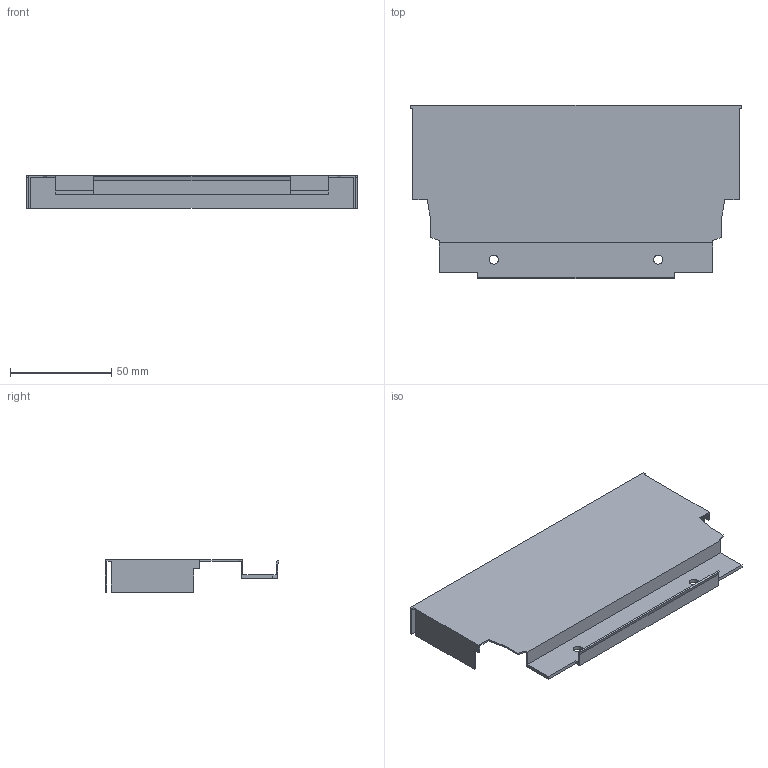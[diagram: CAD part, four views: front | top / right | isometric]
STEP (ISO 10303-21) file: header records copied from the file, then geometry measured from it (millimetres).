
FILE_DESCRIPTION (( 'STEP AP214' ), '1' );
FILE_NAME ('_DWD_XP Stahlrückwand_H86_KAB250_S19.step', '2010-07-08T12:10:28', ( 'grass' ), ( '' ), 'SwSTEP 2.0', 'SolidWorks 2010', '' );
FILE_SCHEMA (( 'AUTOMOTIVE_DESIGN' ));
Length unit declared in the file: millimetre
Products named in the file (1): _DWD_XP Stahlrückwand_H86_KAB250_S19
Bounding box: 163 x 85.79 x 16 mm (x, y, z)
Volume: 16666.3 mm3; surface area: 37264.6 mm2
Topology: 1 solids, 1 shells, 48 faces, 138 edges, 92 vertices
Faces by surface type: plane 44, cylinder 4
Entity records: 1592 total; most frequent: CARTESIAN_POINT 279, ORIENTED_EDGE 276, DIRECTION 244, EDGE_CURVE 138, LINE 130, VECTOR 130, VERTEX_POINT 92, AXIS2_PLACEMENT_3D 57
